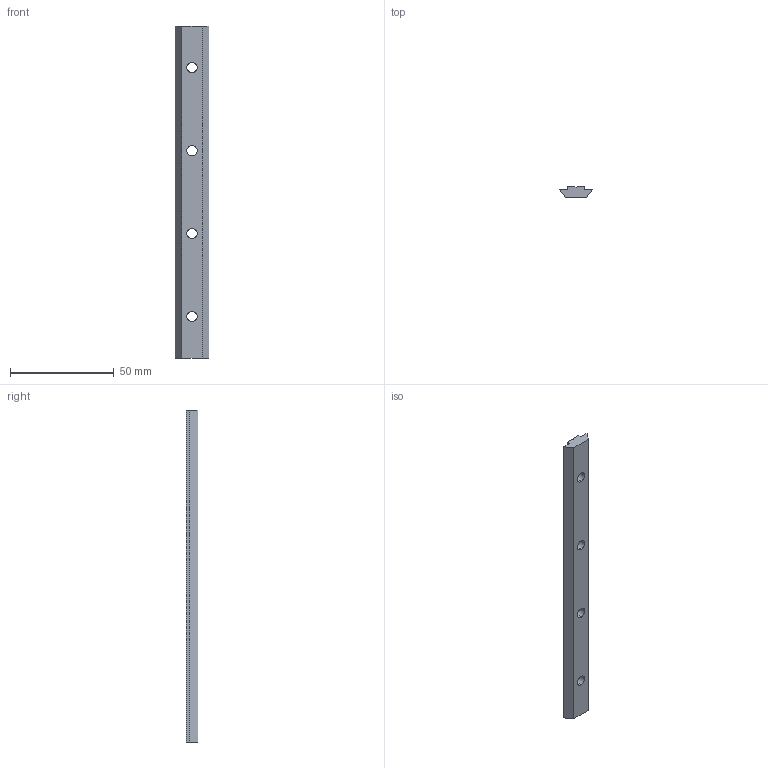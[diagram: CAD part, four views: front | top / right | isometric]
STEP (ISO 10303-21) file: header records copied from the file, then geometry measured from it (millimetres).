
FILE_DESCRIPTION (( 'STEP AP203' ), '1' );
FILE_NAME ('2018.STEP', '2016-04-03T13:28:24', ( '' ), ( '' ), 'SwSTEP 2.0', 'SolidWorks 2014', '' );
FILE_SCHEMA (( 'CONFIG_CONTROL_DESIGN' ));
Length unit declared in the file: millimetre
Products named in the file (1): 2018
Bounding box: 16 x 5.5 x 160 mm (x, y, z)
Volume: 9773.2 mm3; surface area: 6611.9 mm2
Topology: 1 solids, 1 shells, 29 faces, 85 edges, 54 vertices
Faces by surface type: plane 21, cylinder 8
Entity records: 1044 total; most frequent: CARTESIAN_POINT 217, ORIENTED_EDGE 170, DIRECTION 145, EDGE_CURVE 85, VERTEX_POINT 54, LINE 53, VECTOR 53, AXIS2_PLACEMENT_3D 46
